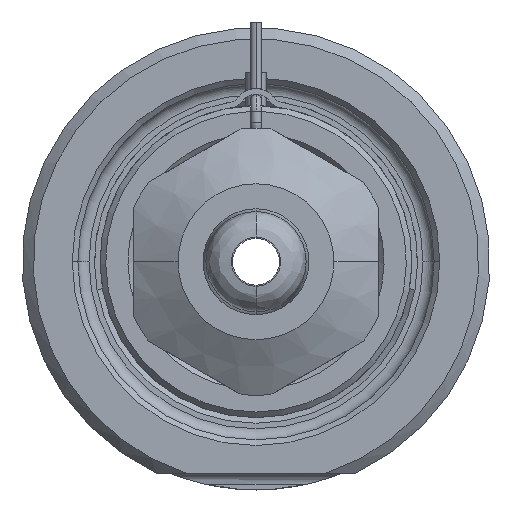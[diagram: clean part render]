
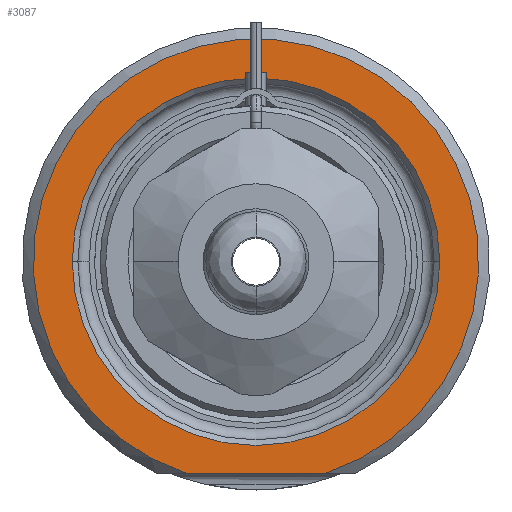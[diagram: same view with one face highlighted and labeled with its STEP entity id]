
A CAD part, front view. The second image highlights one B-rep face of the part: STEP entity #3087.
In plain terms, the highlighted planar face has unit normal (0, -1, 0).
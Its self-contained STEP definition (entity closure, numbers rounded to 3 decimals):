
#1=DIRECTION('',(1.,0.,0.));
#2=VECTOR('',#1,12.49);
#3=CARTESIAN_POINT('',(-6.245,0.,-19.));
#4=LINE('',#3,#2);
#5=CARTESIAN_POINT('',(0.,0.,0.));
#6=DIRECTION('',(0.,1.,0.));
#7=DIRECTION('',(-1.,0.,0.));
#8=AXIS2_PLACEMENT_3D('',#5,#6,#7);
#10=CARTESIAN_POINT('',(0.,0.,0.));
#11=DIRECTION('',(0.,1.,0.));
#12=DIRECTION('',(1.,0.,0.));
#13=AXIS2_PLACEMENT_3D('',#10,#11,#12);
#119=CARTESIAN_POINT('',(0.,0.,0.));
#120=DIRECTION('',(0.,-1.,0.));
#121=DIRECTION('',(0.312,0.,-0.95));
#122=AXIS2_PLACEMENT_3D('',#119,#120,#121);
#2568=CARTESIAN_POINT('',(-16.5,0.,0.));
#2569=CARTESIAN_POINT('',(16.5,0.,0.));
#2570=VERTEX_POINT('',#2568);
#2571=VERTEX_POINT('',#2569);
#2622=CARTESIAN_POINT('',(-6.245,0.,-19.));
#2623=CARTESIAN_POINT('',(6.245,0.,-19.));
#2624=VERTEX_POINT('',#2622);
#2625=VERTEX_POINT('',#2623);
#3070=CARTESIAN_POINT('',(0.,0.,0.));
#3071=DIRECTION('',(0.,-1.,0.));
#3072=DIRECTION('',(1.,0.,0.));
#3073=AXIS2_PLACEMENT_3D('',#3070,#3071,#3072);
#3074=PLANE('',#3073);
#3076=ORIENTED_EDGE('',*,*,#3075,.F.);
#3078=ORIENTED_EDGE('',*,*,#3077,.F.);
#3079=EDGE_LOOP('',(#3076,#3078));
#3080=FACE_OUTER_BOUND('',#3079,.F.);
#3082=ORIENTED_EDGE('',*,*,#3081,.F.);
#3084=ORIENTED_EDGE('',*,*,#3083,.F.);
#3085=EDGE_LOOP('',(#3082,#3084));
#3086=FACE_BOUND('',#3085,.F.);
#3087=ADVANCED_FACE('',(#3080,#3086),#3074,.T.);
#9=CIRCLE('',#8,16.5);
#14=CIRCLE('',#13,16.5);
#123=CIRCLE('',#122,20.);
#3075=EDGE_CURVE('',#2624,#2625,#4,.T.);
#3077=EDGE_CURVE('',#2625,#2624,#123,.T.);
#3081=EDGE_CURVE('',#2570,#2571,#9,.T.);
#3083=EDGE_CURVE('',#2571,#2570,#14,.T.);
